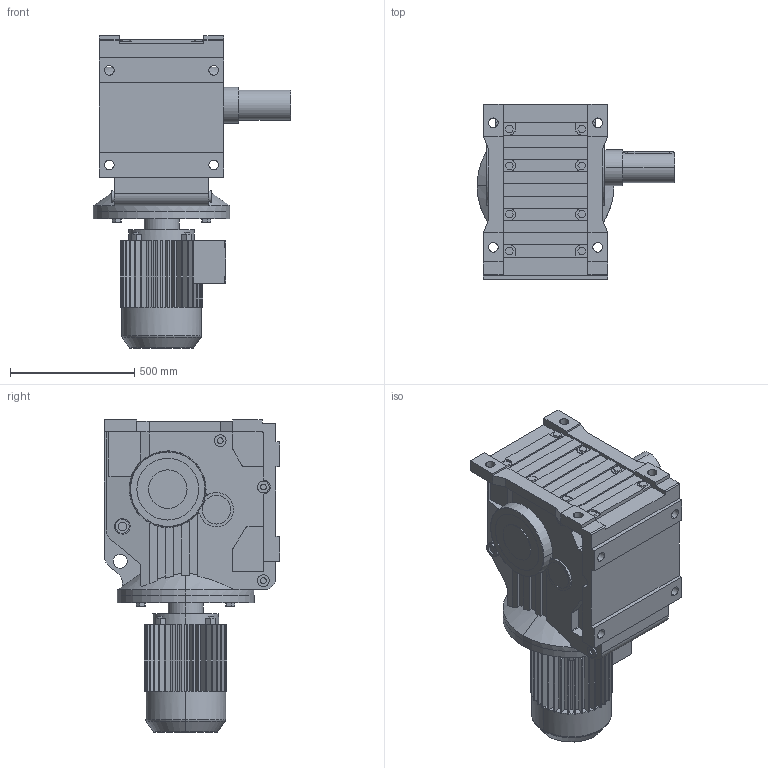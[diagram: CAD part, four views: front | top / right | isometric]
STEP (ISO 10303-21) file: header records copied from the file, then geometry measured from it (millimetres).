
FILE_DESCRIPTION(('Open CASCADE Model'),'2;1');
FILE_NAME('Open CASCADE Shape Model','2021-05-20T10:18:55',('Author'),( 'Open CASCADE'),'Open CASCADE STEP processor 6.3','Open CASCADE 6.3' ,'Unknown');
FILE_SCHEMA(('AUTOMOTIVE_DESIGN_CC2 { 1 2 10303 214 -1 1 5 4 }'));
Length unit declared in the file: millimetre
Products named in the file (4): 1_K157DV180-A; K37‵157_157.step; 萇儂_550-DV180-552-708-331-258.step; す瑩妗陑粣K_157.step
Assembly tree (3 placements, depth 2):
  1_K157DV180-A
    K37‵157_157.step
    萇儂_550-DV180-552-708-331-258.step
    す瑩妗陑粣K_157.step
Bounding box: 795 x 705 x 1258 mm (x, y, z)
Volume: 227180217.7 mm3; surface area: 4986749.9 mm2
Topology: 3 solids, 3 shells, 837 faces, 2207 edges, 1433 vertices
Faces by surface type: plane 584, cylinder 230, cone 15, torus 8
Entity records: 58037 total; most frequent: CARTESIAN_POINT 16102, DIRECTION 7223, ORIENTED_EDGE 4410, PCURVE 4410, DEFINITIONAL_REPRESENTATION 4410, LINE 3940, VECTOR 3940, EDGE_CURVE 2205
